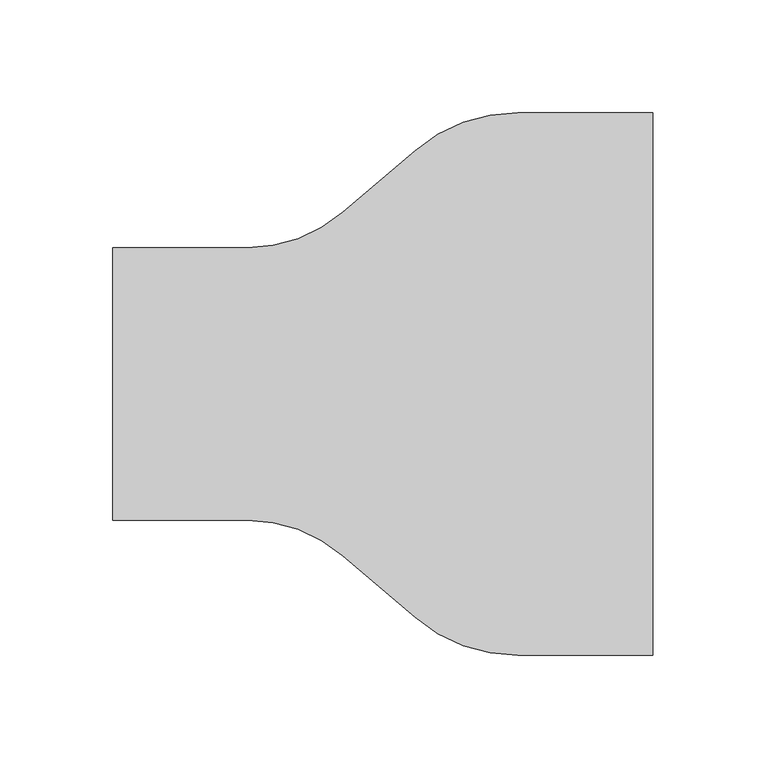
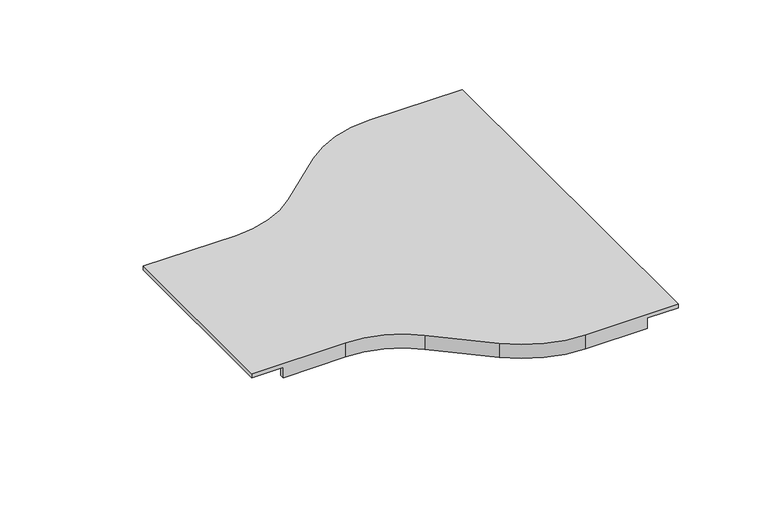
"""IFC4 building model written with IfcOpenShell, lengths in millimetres: cable carrier fitting geometry, CCT_Hyperline_FBTR-240-RDC120-CVR Крышка на переход 240-120 для оптического лотка : Крышка на переход 240-120 для оптического лотка."""

from ifc_helpers import new_model, si_unit, frame, origin, place, context, project, spatial, polyline, circle_curve, source, transform, mapped, element, save
from ifc_brep_helpers import plane_surface, cylinder_surface, revolved_surface, advanced_brep


def cable_carrier_fitting_28f04403(model_context):
    return source(origin(), model_context, "Body", "AdvancedBrep", [
        advanced_brep(
        [(120.0, 120.54, 53.0), (60.0, 120.54, 53.0), (14.3655749, 103.6587274, 53.0), (-17.671595, 76.1982961, 53.0), (-60.0, 60.54, 53.0), (-120.0, 60.54, 53.0), (-120.0, -60.54, 53.0), (-60.0, -60.54, 53.0), (-17.671595, -76.1982961, 53.0), (14.3655749, -103.6587274, 53.0), (60.0, -120.54, 53.0), (120.0, -120.54, 53.0), (-60.0, 58.0, 50.46), (-16.0185849, 74.2697843, 50.46), (16.0185849, 101.7302157, 50.46), (60.0, 118.0, 50.46), (100.0, 118.0, 50.46), (100.0, 120.54, 50.46), (120.0, 120.54, 50.46), (120.0, -120.54, 50.46), (100.0, -120.54, 50.46), (100.0, -118.0, 50.46), (60.0, -118.0, 50.46), (16.0185849, -101.7302157, 50.46), (-16.0185849, -74.2697843, 50.46), (-60.0, -58.0, 50.46), (-100.0, -58.0, 50.46), (-100.0, -60.54, 50.46), (-120.0, -60.54, 50.46), (-120.0, 60.54, 50.46), (-100.0, 60.54, 50.46), (-100.0, 58.0, 50.46), (-60.0, 58.0, 43.46), (-100.0, 58.0, 43.46), (-60.0, 60.54, 43.46), (-17.671595, 76.1982961, 43.46), (14.3655749, 103.6587274, 43.46), (60.0, 120.54, 43.46), (100.0, 120.54, 43.46), (100.0, 118.0, 43.46), (60.0, 118.0, 43.46), (16.0185849, 101.7302157, 43.46), (-16.0185849, 74.2697843, 43.46), (-100.0, 60.54, 43.46), (-60.0, -58.0, 43.46), (-100.0, -58.0, 43.46), (-16.0185849, -74.2697843, 43.46), (16.0185849, -101.7302157, 43.46), (60.0, -118.0, 43.46), (100.0, -118.0, 43.46), (100.0, -120.54, 43.46), (60.0, -120.54, 43.46), (14.3655749, -103.6587274, 43.46), (-17.671595, -76.1982961, 43.46), (-60.0, -60.54, 43.46), (-100.0, -60.54, 43.46)],
        [
            (0, 1),
            (1, 2, circle_curve(frame((60.0, 50.4185648, 53.0), z_axis=(0.0, 0.0, 1.0), x_axis=(-0.650791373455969, 0.7592566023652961, 0.0)), 70.1214352)),
            (2, 3),
            (3, 4, circle_curve(frame((-60.0, 125.5814352, 53.0), z_axis=(0.0, 0.0, -1.0), x_axis=(0.0, -1.0, 0.0)), 65.0414352)),
            (4, 5),
            (5, 6),
            (6, 7),
            (7, 8, circle_curve(frame((-60.0, -125.5814352, 53.0), z_axis=(0.0, 0.0, -1.0), x_axis=(0.0, 1.0, 0.0)), 65.0414352)),
            (8, 9),
            (9, 10, circle_curve(frame((60.0, -50.4185648, 53.0), z_axis=(0.0, 0.0, 1.0), x_axis=(-0.6507913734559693, -0.759256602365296, 0.0)), 70.1214352)),
            (10, 11),
            (11, 0),
            (12, 13, circle_curve(frame((-60.0, 125.5814352, 50.46), z_axis=(0.0, 0.0, 1.0), x_axis=(0.0, -1.0, 0.0)), 67.5814352)),
            (13, 14),
            (14, 15, circle_curve(frame((60.0, 50.4185648, 50.46), z_axis=(0.0, 0.0, -1.0), x_axis=(-0.650791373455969, 0.7592566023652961, 0.0)), 67.5814352)),
            (15, 16),
            (16, 17),
            (17, 18),
            (18, 19),
            (19, 20),
            (20, 21),
            (21, 22),
            (22, 23, circle_curve(frame((60.0, -50.4185648, 50.46), z_axis=(0.0, 0.0, -1.0), x_axis=(-0.6507913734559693, -0.759256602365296, 0.0)), 67.5814352)),
            (23, 24),
            (24, 25, circle_curve(frame((-60.0, -125.5814352, 50.46), z_axis=(0.0, 0.0, 1.0), x_axis=(0.0, 1.0, 0.0)), 67.5814352)),
            (25, 26),
            (26, 27),
            (27, 28),
            (28, 29),
            (29, 30),
            (30, 31),
            (31, 12),
            (11, 19),
            (18, 0),
            (5, 29),
            (28, 6),
            (32, 12),
            (31, 33),
            (33, 32),
            (34, 35, circle_curve(frame((-60.0, 125.5814352, 43.46), z_axis=(0.0, 0.0, 1.0), x_axis=(0.0, -1.0, 0.0)), 65.0414352)),
            (35, 36),
            (36, 37, circle_curve(frame((60.0, 50.4185648, 43.46), z_axis=(0.0, 0.0, -1.0), x_axis=(-0.650791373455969, 0.7592566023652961, 0.0)), 70.1214352)),
            (37, 38),
            (38, 39),
            (39, 40),
            (40, 41, circle_curve(frame((60.0, 50.4185648, 43.46), z_axis=(0.0, 0.0, 1.0), x_axis=(-0.650791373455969, 0.7592566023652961, 0.0)), 67.5814352)),
            (41, 42),
            (42, 32, circle_curve(frame((-60.0, 125.5814352, 43.46), z_axis=(0.0, 0.0, -1.0), x_axis=(0.0, -1.0, 0.0)), 67.5814352)),
            (33, 43),
            (43, 34),
            (4, 34),
            (43, 30),
            (42, 13),
            (3, 35),
            (41, 14),
            (2, 36),
            (40, 15),
            (1, 37),
            (39, 16),
            (17, 38),
            (25, 44),
            (44, 45),
            (45, 26),
            (44, 46, circle_curve(frame((-60.0, -125.5814352, 43.46), z_axis=(0.0, 0.0, -1.0), x_axis=(0.0, 1.0, 0.0)), 67.5814352)),
            (46, 47),
            (47, 48, circle_curve(frame((60.0, -50.4185648, 43.46), z_axis=(0.0, 0.0, 1.0), x_axis=(-0.6507913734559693, -0.759256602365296, 0.0)), 67.5814352)),
            (48, 49),
            (49, 50),
            (50, 51),
            (51, 52, circle_curve(frame((60.0, -50.4185648, 43.46), z_axis=(0.0, 0.0, -1.0), x_axis=(-0.6507913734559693, -0.759256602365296, 0.0)), 70.1214352)),
            (52, 53),
            (53, 54, circle_curve(frame((-60.0, -125.5814352, 43.46), z_axis=(0.0, 0.0, 1.0), x_axis=(0.0, 1.0, 0.0)), 65.0414352)),
            (54, 55),
            (55, 45),
            (27, 55),
            (54, 7),
            (24, 46),
            (53, 8),
            (23, 47),
            (52, 9),
            (22, 48),
            (51, 10),
            (21, 49),
            (50, 20),
        ],
        [
            plane_surface(frame((-60.0, 0.0, 53.0), z_axis=(0.0, 0.0, 1.0), x_axis=(-1.0, 0.0, 0.0))),
            plane_surface(frame((-60.0, 0.0, 50.46), z_axis=(0.0, 0.0, -1.0), x_axis=(1.0, 0.0, 0.0))),
            plane_surface(frame((120.0, -60.0, 53.0), z_axis=(1.0, 0.0, 0.0), x_axis=(0.0, 0.0, -1.0))),
            plane_surface(frame((-120.0, 58.0, 0.46), z_axis=(-1.0, 0.0, 0.0), x_axis=(0.0, 0.0, 1.0))),
            plane_surface(frame((-120.0, 58.0, 43.46), z_axis=(0.0, -1.0, 0.0), x_axis=(1.0, 0.0, 0.0))),
            plane_surface(frame((-120.0, 60.54, 43.46), z_axis=(0.0, 0.0, -1.0), x_axis=(1.0, 0.0, 0.0))),
            plane_surface(frame((-120.0, 60.54, 53.0), z_axis=(0.0, 1.0, 0.0), x_axis=(1.0, 0.0, 0.0))),
            cylinder_surface(frame((-60.0, 125.5814352, 0.46), z_axis=(0.0, 0.0, 1.0), x_axis=(0.0, -1.0, 0.0)), 67.5814352),
            revolved_surface(polyline([(-60.0, 60.540000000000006, 53.0), (-60.0, 60.540000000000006, 43.46)]), (-60.0, 125.5814352, 0.46), (0.0, 0.0, 1.0)),
            plane_surface(frame((-16.0185849, 74.2697843, 43.46), z_axis=(0.6507913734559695, -0.7592566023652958, 0.0), x_axis=(0.7592566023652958, 0.6507913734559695, 0.0))),
            plane_surface(frame((-17.671595, 76.1982961, 53.0), z_axis=(-0.6507913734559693, 0.759256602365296, 0.0), x_axis=(0.759256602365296, 0.6507913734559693, 0.0))),
            revolved_surface(polyline([(16.018584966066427, 101.73021567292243, 43.46), (16.018584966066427, 101.73021567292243, 50.46)]), (60.0, 50.4185648, 0.46), (0.0, 0.0, -1.0)),
            cylinder_surface(frame((60.0, 50.4185648, 0.46), z_axis=(0.0, 0.0, -1.0), x_axis=(-0.650791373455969, 0.7592566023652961, 0.0)), 70.1214352),
            plane_surface(frame((60.0, 118.0, 43.46), z_axis=(0.0, -1.0, 0.0), x_axis=(1.0, 0.0, 0.0))),
            plane_surface(frame((60.0, 120.54, 53.0), z_axis=(0.0, 1.0, 0.0), x_axis=(1.0, 0.0, 0.0))),
            plane_surface(frame((-120.0, -58.0, 50.46), z_axis=(0.0, 1.0, 0.0), x_axis=(1.0, 0.0, 0.0))),
            plane_surface(frame((-120.0, -58.0, 43.46), z_axis=(0.0, 0.0, -1.0), x_axis=(1.0, 0.0, 0.0))),
            plane_surface(frame((-120.0, -60.54, 43.46), z_axis=(0.0, -1.0, 0.0), x_axis=(1.0, 0.0, 0.0))),
            cylinder_surface(frame((-60.0, -125.5814352, 0.46), z_axis=(0.0, 0.0, -1.0), x_axis=(0.0, 1.0, 0.0)), 67.5814352),
            revolved_surface(polyline([(-60.0, -60.540000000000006, 43.46), (-60.0, -60.540000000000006, 53.0)]), (-60.0, -125.5814352, 0.46), (0.0, 0.0, -1.0)),
            plane_surface(frame((-16.0185849, -74.2697843, 50.46), z_axis=(0.6507913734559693, 0.759256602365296, 0.0), x_axis=(0.759256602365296, -0.6507913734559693, 0.0))),
            plane_surface(frame((-17.671595, -76.1982961, 43.46), z_axis=(-0.6507913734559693, -0.7592566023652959, 0.0), x_axis=(0.7592566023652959, -0.6507913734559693, 0.0))),
            revolved_surface(polyline([(16.018584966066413, -101.73021567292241, 50.46), (16.018584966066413, -101.73021567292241, 43.46)]), (60.0, -50.4185648, 0.46), (0.0, 0.0, 1.0)),
            cylinder_surface(frame((60.0, -50.4185648, 0.46), z_axis=(0.0, 0.0, 1.0), x_axis=(-0.6507913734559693, -0.759256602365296, 0.0)), 70.1214352),
            plane_surface(frame((60.0, -118.0, 50.46), z_axis=(0.0, 1.0, 0.0), x_axis=(1.0, 0.0, 0.0))),
            plane_surface(frame((60.0, -120.54, 43.46), z_axis=(0.0, -1.0, 0.0), x_axis=(1.0, 0.0, 0.0))),
            plane_surface(frame((100.0, -520.0, 50.46), z_axis=(1.0, 0.0, 0.0), x_axis=(0.0, 1.0, 0.0))),
            plane_surface(frame((-100.0, -520.0, 43.46), z_axis=(-1.0, 0.0, 0.0), x_axis=(0.0, 1.0, 0.0))),
        ],
        [
            (0, [[1, 2, 3, 4, 5, 6, 7, 8, 9, 10, 11, 12]]),
            (1, [[13, 14, 15, 16, 17, 18, 19, 20, 21, 22, 23, 24, 25, 26, 27, 28, 29, 30, 31, 32]]),
            (2, [[-12, 33, -19, 34]]),
            (3, [[-6, 35, -29, 36]]),
            (4, [[37, -32, 38, 39]]),
            (5, [[40, 41, 42, 43, 44, 45, 46, 47, 48, -39, 49, 50]]),
            (6, [[-5, 51, -50, 52, -30, -35]]),
            (7, [[-13, -37, -48, 53]]),
            (8, [[-4, 54, -40, -51]]),
            (9, [[-14, -53, -47, 55]]),
            (10, [[-3, 56, -41, -54]]),
            (11, [[-15, -55, -46, 57]]),
            (12, [[-2, 58, -42, -56]]),
            (13, [[-57, -45, 59, -16]]),
            (14, [[-1, -34, -18, 60, -43, -58]]),
            (15, [[61, 62, 63, -26]]),
            (16, [[64, 65, 66, 67, 68, 69, 70, 71, 72, 73, 74, -62]]),
            (17, [[-7, -36, -28, 75, -73, 76]]),
            (18, [[-25, 77, -64, -61]]),
            (19, [[-8, -76, -72, 78]]),
            (20, [[-24, 79, -65, -77]]),
            (21, [[-9, -78, -71, 80]]),
            (22, [[-23, 81, -66, -79]]),
            (23, [[-10, -80, -70, 82]]),
            (24, [[-81, -22, 83, -67]]),
            (25, [[-11, -82, -69, 84, -20, -33]]),
            (26, [[-17, -59, -44, -60]]),
            (26, [[-21, -84, -68, -83]]),
            (27, [[-27, -63, -74, -75]]),
            (27, [[-31, -52, -49, -38]]),
        ],
    ),
    ])


if __name__ == "__main__":
    model = new_model("IFC4")
    model_context = context("Model", 3, world=origin())
    ifc_project = project(units=[si_unit("LENGTHUNIT", "METRE", prefix="MILLI")], contexts=[model_context])
    site = spatial("IfcSite", under=ifc_project)
    building = spatial("IfcBuilding", under=site)
    placement = place(None, origin())
    cable_carrier_fitting_shape = cable_carrier_fitting_28f04403(model_context)
    element("IfcCableCarrierFitting", 1, ObjectType="CCT_Hyperline_FBTR-240-RDC120-CVR Крышка на переход 240-120 для оптического лотка : Крышка на переход 240-120 для оптического лотка", at=placement, inside=building, context=model_context, shape_type="MappedRepresentation", body=[
        mapped(cable_carrier_fitting_shape, transform((0.0, 0.0, 0.0), x_axis=(1.0, 0.0, 0.0), y_axis=(0.0, 1.0, 0.0), z_axis=(0.0, 0.0, 1.0))),
    ])
    save(model, "model.ifc")
